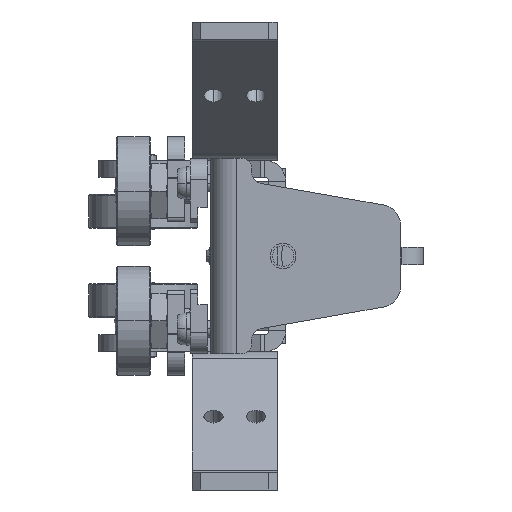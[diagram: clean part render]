
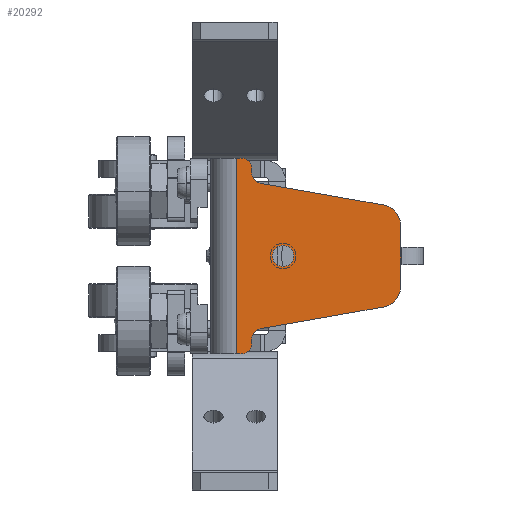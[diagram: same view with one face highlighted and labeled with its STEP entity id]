
A CAD part, left-side view. The second image highlights one B-rep face of the part: STEP entity #20292.
In plain terms, the highlighted planar face has unit normal (-1, 0, 0) as drawn and (1, 0, 0) by its records, which use the part's own axes.
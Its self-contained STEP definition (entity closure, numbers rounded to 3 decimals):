
#19631=DIRECTION('',(0.,0.,1.));
#19632=VECTOR('',#19631,46.);
#19633=CARTESIAN_POINT('',(25.,-2.,-23.));
#19634=LINE('',#19633,#19632);
#19649=CARTESIAN_POINT('',(25.,-3.15,20.5));
#19650=DIRECTION('',(1.,0.,0.));
#19651=DIRECTION('',(0.,0.,1.));
#19652=AXIS2_PLACEMENT_3D('',#19649,#19650,#19651);
#19654=DIRECTION('',(0.,-1.,0.));
#19655=VECTOR('',#19654,1.15);
#19656=CARTESIAN_POINT('',(25.,-2.,23.));
#19657=LINE('',#19656,#19655);
#19658=DIRECTION('',(0.,1.,0.));
#19659=VECTOR('',#19658,1.15);
#19660=CARTESIAN_POINT('',(25.,-3.15,-23.));
#19661=LINE('',#19660,#19659);
#19662=CARTESIAN_POINT('',(25.,-3.15,-20.5));
#19663=DIRECTION('',(1.,0.,0.));
#19664=DIRECTION('',(0.,-1.,0.));
#19665=AXIS2_PLACEMENT_3D('',#19662,#19663,#19664);
#19667=DIRECTION('',(0.,0.,1.));
#19668=VECTOR('',#19667,0.952);
#19669=CARTESIAN_POINT('',(25.,-5.65,-20.5));
#19670=LINE('',#19669,#19668);
#19671=DIRECTION('',(0.,0.985,-0.174));
#19672=VECTOR('',#19671,29.246);
#19673=CARTESIAN_POINT('',(25.,-36.518,-12.01));
#19674=LINE('',#19673,#19672);
#19675=CARTESIAN_POINT('',(25.,-35.65,-7.086));
#19676=DIRECTION('',(1.,0.,0.));
#19677=DIRECTION('',(0.,-1.,0.));
#19678=AXIS2_PLACEMENT_3D('',#19675,#19676,#19677);
#19680=DIRECTION('',(0.,0.,-1.));
#19681=VECTOR('',#19680,14.169);
#19682=CARTESIAN_POINT('',(25.,-40.65,7.083));
#19683=LINE('',#19682,#19681);
#19684=CARTESIAN_POINT('',(25.,-35.65,7.083));
#19685=DIRECTION('',(1.,0.,0.));
#19686=DIRECTION('',(0.,-0.174,0.985));
#19687=AXIS2_PLACEMENT_3D('',#19684,#19685,#19686);
#19689=DIRECTION('',(0.,-0.985,-0.174));
#19690=VECTOR('',#19689,29.247);
#19691=CARTESIAN_POINT('',(25.,-7.716,17.086));
#19692=LINE('',#19691,#19690);
#19693=DIRECTION('',(0.,0.,-1.));
#19694=VECTOR('',#19693,0.952);
#19695=CARTESIAN_POINT('',(25.,-5.65,20.5));
#19696=LINE('',#19695,#19694);
#19697=CARTESIAN_POINT('',(25.,-13.,0.));
#19698=DIRECTION('',(1.,0.,0.));
#19699=DIRECTION('',(0.,-1.,0.));
#19700=AXIS2_PLACEMENT_3D('',#19697,#19698,#19699);
#19702=CARTESIAN_POINT('',(25.,-13.,0.));
#19703=DIRECTION('',(1.,0.,0.));
#19704=DIRECTION('',(0.,1.,0.));
#19705=AXIS2_PLACEMENT_3D('',#19702,#19703,#19704);
#19778=CARTESIAN_POINT('',(25.,-8.15,19.548));
#19779=DIRECTION('',(-1.,0.,0.));
#19780=DIRECTION('',(0.,1.,0.));
#19781=AXIS2_PLACEMENT_3D('',#19778,#19779,#19780);
#19812=CARTESIAN_POINT('',(25.,-8.15,-19.548));
#19813=DIRECTION('',(-1.,0.,0.));
#19814=DIRECTION('',(0.,0.174,0.985));
#19815=AXIS2_PLACEMENT_3D('',#19812,#19813,#19814);
#19991=CARTESIAN_POINT('',(25.,-40.65,-7.086));
#19992=VERTEX_POINT('',#19991);
#19993=CARTESIAN_POINT('',(25.,-36.518,-12.01));
#19994=VERTEX_POINT('',#19993);
#19999=CARTESIAN_POINT('',(25.,-36.518,12.007));
#20000=VERTEX_POINT('',#19999);
#20001=CARTESIAN_POINT('',(25.,-40.65,7.083));
#20002=VERTEX_POINT('',#20001);
#20028=CARTESIAN_POINT('',(25.,-7.716,17.086));
#20030=VERTEX_POINT('',#20028);
#20032=CARTESIAN_POINT('',(25.,-5.65,19.548));
#20034=VERTEX_POINT('',#20032);
#20036=CARTESIAN_POINT('',(25.,-5.65,-19.548));
#20038=VERTEX_POINT('',#20036);
#20040=CARTESIAN_POINT('',(25.,-7.716,-17.086));
#20042=VERTEX_POINT('',#20040);
#20047=CARTESIAN_POINT('',(25.,-3.15,23.));
#20048=VERTEX_POINT('',#20047);
#20049=CARTESIAN_POINT('',(25.,-5.65,20.5));
#20050=VERTEX_POINT('',#20049);
#20055=CARTESIAN_POINT('',(25.,-5.65,-20.5));
#20056=VERTEX_POINT('',#20055);
#20057=CARTESIAN_POINT('',(25.,-3.15,-23.));
#20058=VERTEX_POINT('',#20057);
#20063=CARTESIAN_POINT('',(25.,-2.,23.));
#20064=VERTEX_POINT('',#20063);
#20065=CARTESIAN_POINT('',(25.,-2.,-23.));
#20066=VERTEX_POINT('',#20065);
#20107=CARTESIAN_POINT('',(25.,-15.5,0.));
#20108=CARTESIAN_POINT('',(25.,-10.5,0.));
#20109=VERTEX_POINT('',#20107);
#20110=VERTEX_POINT('',#20108);
#20252=CARTESIAN_POINT('',(25.,4.,23.));
#20253=DIRECTION('',(1.,0.,0.));
#20254=DIRECTION('',(0.,0.,1.));
#20255=AXIS2_PLACEMENT_3D('',#20252,#20253,#20254);
#20256=PLANE('',#20255);
#20258=ORIENTED_EDGE('',*,*,#20257,.F.);
#20260=ORIENTED_EDGE('',*,*,#20259,.F.);
#20261=ORIENTED_EDGE('',*,*,#20242,.F.);
#20263=ORIENTED_EDGE('',*,*,#20262,.F.);
#20265=ORIENTED_EDGE('',*,*,#20264,.F.);
#20267=ORIENTED_EDGE('',*,*,#20266,.T.);
#20269=ORIENTED_EDGE('',*,*,#20268,.F.);
#20271=ORIENTED_EDGE('',*,*,#20270,.F.);
#20273=ORIENTED_EDGE('',*,*,#20272,.F.);
#20275=ORIENTED_EDGE('',*,*,#20274,.F.);
#20277=ORIENTED_EDGE('',*,*,#20276,.F.);
#20279=ORIENTED_EDGE('',*,*,#20278,.F.);
#20281=ORIENTED_EDGE('',*,*,#20280,.F.);
#20283=ORIENTED_EDGE('',*,*,#20282,.F.);
#20284=EDGE_LOOP('',(#20258,#20260,#20261,#20263,#20265,#20267,#20269,#20271,
#20273,#20275,#20277,#20279,#20281,#20283));
#20285=FACE_OUTER_BOUND('',#20284,.F.);
#20287=ORIENTED_EDGE('',*,*,#20286,.T.);
#20289=ORIENTED_EDGE('',*,*,#20288,.T.);
#20290=EDGE_LOOP('',(#20287,#20289));
#20291=FACE_BOUND('',#20290,.F.);
#20292=ADVANCED_FACE('',(#20285,#20291),#20256,.T.);
#19653=CIRCLE('',#19652,2.5);
#19666=CIRCLE('',#19665,2.5);
#19679=CIRCLE('',#19678,5.);
#19688=CIRCLE('',#19687,5.);
#19701=CIRCLE('',#19700,2.5);
#19706=CIRCLE('',#19705,2.5);
#19782=CIRCLE('',#19781,2.5);
#19816=CIRCLE('',#19815,2.5);
#20242=EDGE_CURVE('',#20066,#20064,#19634,.T.);
#20257=EDGE_CURVE('',#20048,#20050,#19653,.T.);
#20259=EDGE_CURVE('',#20064,#20048,#19657,.T.);
#20262=EDGE_CURVE('',#20058,#20066,#19661,.T.);
#20264=EDGE_CURVE('',#20056,#20058,#19666,.T.);
#20266=EDGE_CURVE('',#20056,#20038,#19670,.T.);
#20268=EDGE_CURVE('',#20042,#20038,#19816,.T.);
#20270=EDGE_CURVE('',#19994,#20042,#19674,.T.);
#20272=EDGE_CURVE('',#19992,#19994,#19679,.T.);
#20274=EDGE_CURVE('',#20002,#19992,#19683,.T.);
#20276=EDGE_CURVE('',#20000,#20002,#19688,.T.);
#20278=EDGE_CURVE('',#20030,#20000,#19692,.T.);
#20280=EDGE_CURVE('',#20034,#20030,#19782,.T.);
#20282=EDGE_CURVE('',#20050,#20034,#19696,.T.);
#20286=EDGE_CURVE('',#20109,#20110,#19701,.T.);
#20288=EDGE_CURVE('',#20110,#20109,#19706,.T.);
